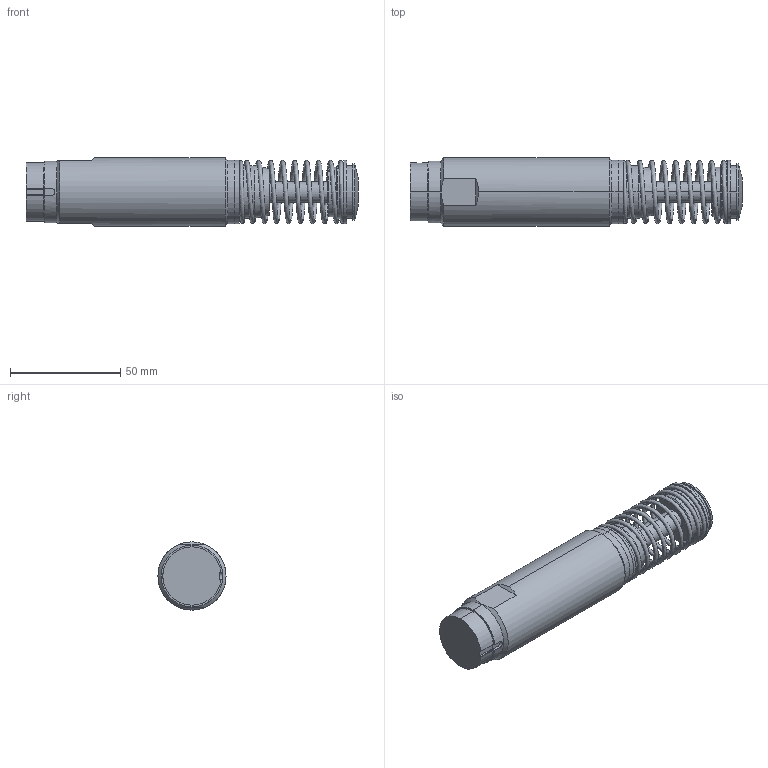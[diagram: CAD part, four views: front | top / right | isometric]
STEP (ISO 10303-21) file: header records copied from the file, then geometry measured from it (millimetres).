
FILE_DESCRIPTION (( 'STEP AP203' ), '1' );
FILE_NAME ('OEM 1.15 X 1.STEP', '2008-07-03T13:19:11', ( ' ' ), ( '' ), 'SwSTEP 2.0', 'SolidWorks 2006233', '' );
FILE_SCHEMA (( 'CONFIG_CONTROL_DESIGN' ));
Length unit declared in the file: inch
Products named in the file (1): OEM 1.15 X 1
Bounding box: 150.32 x 30.86 x 30.86 mm (x, y, z)
Volume: 42202.1 mm3; surface area: 33168.2 mm2
Topology: 9 solids, 9 shells, 238 faces, 513 edges, 312 vertices
Faces by surface type: cylinder 81, plane 62, cone 54, torus 30, bspline 11
Entity records: 13690 total; most frequent: CARTESIAN_POINT 8428, DIRECTION 1141, ORIENTED_EDGE 1018, EDGE_CURVE 509, AXIS2_PLACEMENT_3D 474, VERTEX_POINT 312, EDGE_LOOP 273, CIRCLE 246
